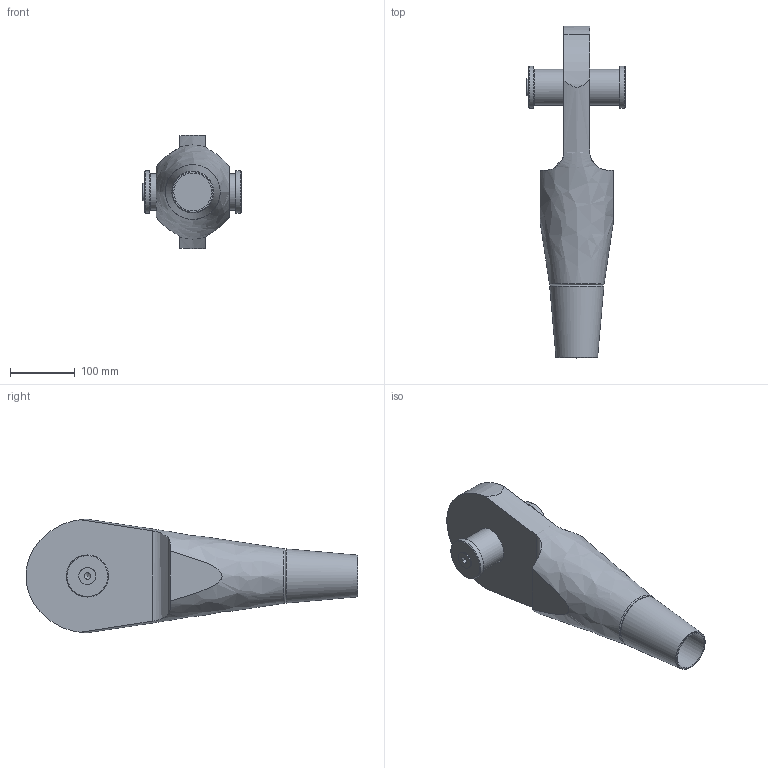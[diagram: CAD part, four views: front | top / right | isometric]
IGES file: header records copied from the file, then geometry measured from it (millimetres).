
Global section: file name: 520-056-OES; native system: Autodesk Inventor 2016; preprocessor: unknown; author: Administrator; date: 20200626.103649; units: centimetre
Bounding box: 151.4 x 512.79 x 175.17 mm (x, y, z)
Volume: 3574378.7 mm3; surface area: 237231.2 mm2
Topology: 2 solids, 3 shells, 44 faces, 107 edges, 73 vertices
Faces by surface type: bspline 44
